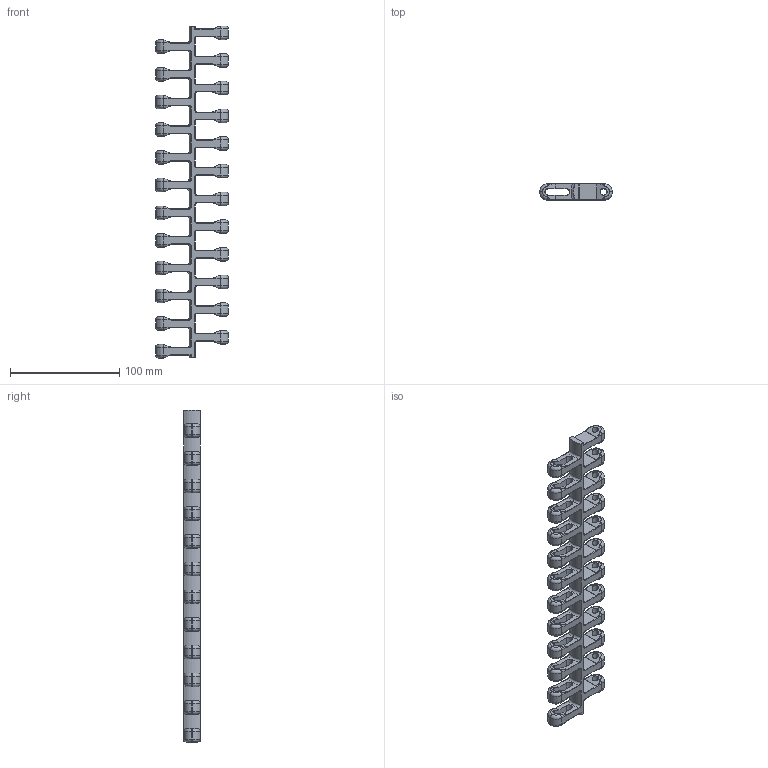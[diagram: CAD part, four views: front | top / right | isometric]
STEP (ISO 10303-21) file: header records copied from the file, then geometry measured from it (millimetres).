
FILE_DESCRIPTION((''),'2;1');
FILE_NAME('P1088','2011-09-21T',('JAS'),(''),'PRO/ENGINEER BY PARAMETRIC TECHNOLOGY CORPORATION, 2011080','PRO/ENGINEER BY PARAMETRIC TECHNOLOGY CORPORATION, 2011080','');
FILE_SCHEMA(('AUTOMOTIVE_DESIGN { 1 0 10303 214 1 1 1 1 }'));
Products named in the file (1): P1088
Bounding box: 66.8 x 15 x 304.5 mm (x, y, z)
Volume: 94824.3 mm3; surface area: 48086.9 mm2
Topology: 1 solids, 1 shells, 1352 faces, 3402 edges, 2004 vertices
Faces by surface type: cylinder 694, torus 268, plane 233, bspline 150, sphere 7
Entity records: 69850 total; most frequent: CARTESIAN_POINT 37690, ORIENTED_EDGE 6804, DIRECTION 6781, EDGE_CURVE 3402, AXIS2_PLACEMENT_3D 2673, VERTEX_POINT 2004, CIRCLE 1471, VECTOR 1435
